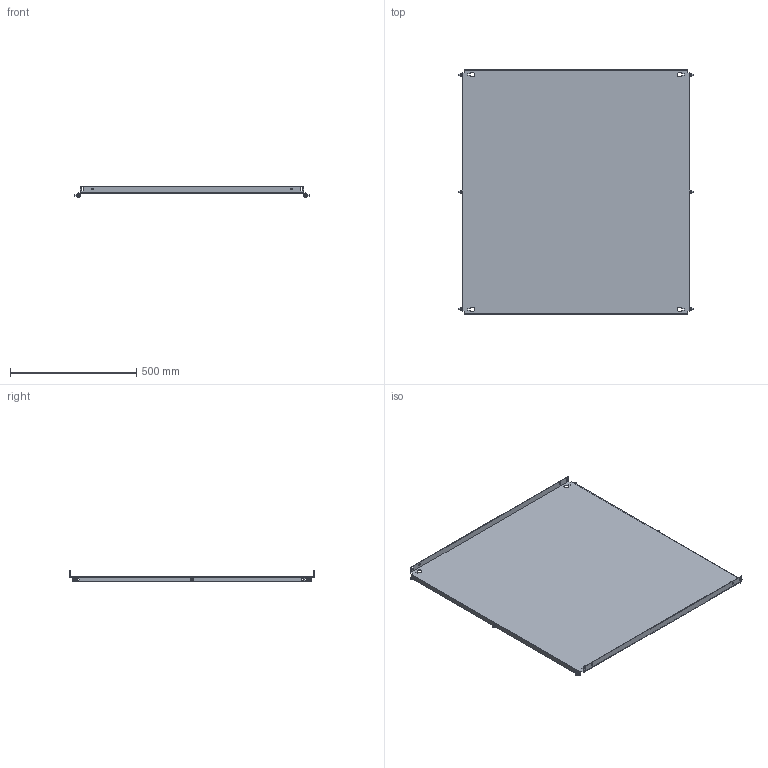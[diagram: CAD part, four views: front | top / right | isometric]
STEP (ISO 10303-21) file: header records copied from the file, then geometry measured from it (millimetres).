
FILE_DESCRIPTION(('Open CASCADE Model'),'2;1');
FILE_NAME('Open CASCADE Shape Model','2025-02-20T13:24:50',('Author'),( 'Open CASCADE'),'Open CASCADE STEP processor 7.8','Open CASCADE 7.8' ,'Unknown');
FILE_SCHEMA(('AUTOMOTIVE_DESIGN { 1 0 10303 214 1 1 1 1 }'));
Length unit declared in the file: millimetre
Products named in the file (4): Compound1; Solid1; Solid2; Solid3
Assembly tree (13 placements, depth 2):
  Compound1
    Solid1
    Solid2  x6
    Solid3  x6
Bounding box: 928 x 969 x 43 mm (x, y, z)
Volume: 1897580.6 mm3; surface area: 1905573.3 mm2
Topology: 13 solids, 13 shells, 422 faces, 1010 edges, 620 vertices
Faces by surface type: plane 192, cone 102, bspline 72, cylinder 38, torus 18
Full cylindrical faces by diameter (mm): 5 x6, 6 x12, 7 x16
Entity records: 5048 total; most frequent: CARTESIAN_POINT 1397, ORIENTED_EDGE 770, DIRECTION 664, EDGE_CURVE 385, VERTEX_POINT 250, AXIS2_PLACEMENT_3D 224, LINE 216, VECTOR 216
